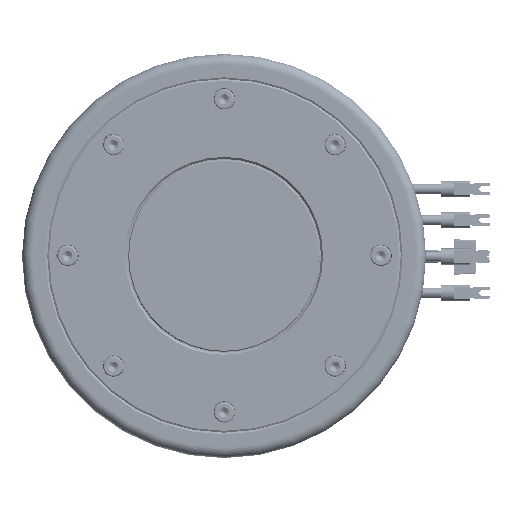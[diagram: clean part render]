
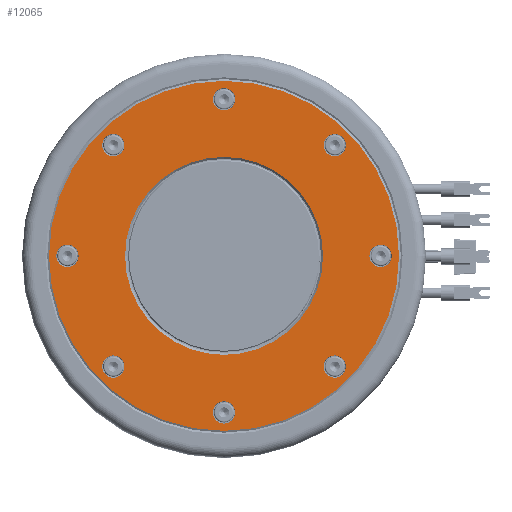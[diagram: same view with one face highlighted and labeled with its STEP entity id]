
A CAD part, top view. The second image highlights one B-rep face of the part: STEP entity #12065.
In plain terms, the highlighted planar face has unit normal (0, 0, 1) as drawn and (-1, 0, 0) by its records, which use the part's own axes.
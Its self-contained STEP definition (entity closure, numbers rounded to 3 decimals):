
#10192=CARTESIAN_POINT('',(0.,0.,0.));
#10193=DIRECTION('',(1.,0.,0.));
#10194=DIRECTION('',(0.,0.,1.));
#10195=AXIS2_PLACEMENT_3D('',#10192,#10193,#10194);
#10197=CARTESIAN_POINT('',(0.,0.,0.));
#10198=DIRECTION('',(1.,0.,0.));
#10199=DIRECTION('',(0.,0.,-1.));
#10200=AXIS2_PLACEMENT_3D('',#10197,#10198,#10199);
#10202=CARTESIAN_POINT('',(0.,54.801,54.801));
#10203=DIRECTION('',(-1.,0.,0.));
#10204=DIRECTION('',(0.,0.,1.));
#10205=AXIS2_PLACEMENT_3D('',#10202,#10203,#10204);
#10207=CARTESIAN_POINT('',(0.,54.801,54.801));
#10208=DIRECTION('',(-1.,0.,0.));
#10209=DIRECTION('',(0.,0.,-1.));
#10210=AXIS2_PLACEMENT_3D('',#10207,#10208,#10209);
#10212=CARTESIAN_POINT('',(0.,0.,77.5));
#10213=DIRECTION('',(-1.,0.,0.));
#10214=DIRECTION('',(0.,0.,1.));
#10215=AXIS2_PLACEMENT_3D('',#10212,#10213,#10214);
#10217=CARTESIAN_POINT('',(0.,0.,77.5));
#10218=DIRECTION('',(-1.,0.,0.));
#10219=DIRECTION('',(0.,0.,-1.));
#10220=AXIS2_PLACEMENT_3D('',#10217,#10218,#10219);
#10222=CARTESIAN_POINT('',(0.,-54.801,54.801));
#10223=DIRECTION('',(-1.,0.,0.));
#10224=DIRECTION('',(0.,0.,1.));
#10225=AXIS2_PLACEMENT_3D('',#10222,#10223,#10224);
#10227=CARTESIAN_POINT('',(0.,-54.801,54.801));
#10228=DIRECTION('',(-1.,0.,0.));
#10229=DIRECTION('',(0.,0.,-1.));
#10230=AXIS2_PLACEMENT_3D('',#10227,#10228,#10229);
#10232=CARTESIAN_POINT('',(0.,-77.5,0.));
#10233=DIRECTION('',(-1.,0.,0.));
#10234=DIRECTION('',(0.,0.,1.));
#10235=AXIS2_PLACEMENT_3D('',#10232,#10233,#10234);
#10237=CARTESIAN_POINT('',(0.,-77.5,0.));
#10238=DIRECTION('',(-1.,0.,0.));
#10239=DIRECTION('',(0.,0.,-1.));
#10240=AXIS2_PLACEMENT_3D('',#10237,#10238,#10239);
#10242=CARTESIAN_POINT('',(0.,-54.801,-54.801));
#10243=DIRECTION('',(-1.,0.,0.));
#10244=DIRECTION('',(0.,0.,1.));
#10245=AXIS2_PLACEMENT_3D('',#10242,#10243,#10244);
#10247=CARTESIAN_POINT('',(0.,-54.801,-54.801));
#10248=DIRECTION('',(-1.,0.,0.));
#10249=DIRECTION('',(0.,0.,-1.));
#10250=AXIS2_PLACEMENT_3D('',#10247,#10248,#10249);
#10252=CARTESIAN_POINT('',(0.,0.,-77.5));
#10253=DIRECTION('',(-1.,0.,0.));
#10254=DIRECTION('',(0.,0.,1.));
#10255=AXIS2_PLACEMENT_3D('',#10252,#10253,#10254);
#10257=CARTESIAN_POINT('',(0.,0.,-77.5));
#10258=DIRECTION('',(-1.,0.,0.));
#10259=DIRECTION('',(0.,0.,-1.));
#10260=AXIS2_PLACEMENT_3D('',#10257,#10258,#10259);
#10262=CARTESIAN_POINT('',(0.,54.801,-54.801));
#10263=DIRECTION('',(-1.,0.,0.));
#10264=DIRECTION('',(0.,0.,1.));
#10265=AXIS2_PLACEMENT_3D('',#10262,#10263,#10264);
#10267=CARTESIAN_POINT('',(0.,54.801,-54.801));
#10268=DIRECTION('',(-1.,0.,0.));
#10269=DIRECTION('',(0.,0.,-1.));
#10270=AXIS2_PLACEMENT_3D('',#10267,#10268,#10269);
#10272=CARTESIAN_POINT('',(0.,0.,0.));
#10273=DIRECTION('',(-1.,0.,0.));
#10274=DIRECTION('',(0.,0.,1.));
#10275=AXIS2_PLACEMENT_3D('',#10272,#10273,#10274);
#10277=CARTESIAN_POINT('',(0.,0.,0.));
#10278=DIRECTION('',(-1.,0.,0.));
#10279=DIRECTION('',(0.,0.,-1.));
#10280=AXIS2_PLACEMENT_3D('',#10277,#10278,#10279);
#10282=CARTESIAN_POINT('',(0.,77.5,0.));
#10283=DIRECTION('',(-1.,0.,0.));
#10284=DIRECTION('',(0.,0.,1.));
#10285=AXIS2_PLACEMENT_3D('',#10282,#10283,#10284);
#10287=CARTESIAN_POINT('',(0.,77.5,0.));
#10288=DIRECTION('',(-1.,0.,0.));
#10289=DIRECTION('',(0.,0.,-1.));
#10290=AXIS2_PLACEMENT_3D('',#10287,#10288,#10289);
#11532=CARTESIAN_POINT('',(0.,54.801,-49.276));
#11533=CARTESIAN_POINT('',(0.,54.801,-60.326));
#11534=VERTEX_POINT('',#11532);
#11535=VERTEX_POINT('',#11533);
#11536=CARTESIAN_POINT('',(0.,0.,86.634));
#11537=CARTESIAN_POINT('',(0.,0.,
-86.634));
#11538=VERTEX_POINT('',#11536);
#11539=VERTEX_POINT('',#11537);
#11540=CARTESIAN_POINT('',(0.,54.801,60.326));
#11541=CARTESIAN_POINT('',(0.,54.801,49.276));
#11542=VERTEX_POINT('',#11540);
#11543=VERTEX_POINT('',#11541);
#11544=CARTESIAN_POINT('',(0.,0.,83.025));
#11545=CARTESIAN_POINT('',(0.,0.,71.975));
#11546=VERTEX_POINT('',#11544);
#11547=VERTEX_POINT('',#11545);
#11548=CARTESIAN_POINT('',(0.,-54.801,60.326));
#11549=CARTESIAN_POINT('',(0.,-54.801,49.276));
#11550=VERTEX_POINT('',#11548);
#11551=VERTEX_POINT('',#11549);
#11552=CARTESIAN_POINT('',(0.,-77.5,5.525));
#11553=CARTESIAN_POINT('',(0.,-77.5,-5.525));
#11554=VERTEX_POINT('',#11552);
#11555=VERTEX_POINT('',#11553);
#11556=CARTESIAN_POINT('',(0.,-54.801,-49.276));
#11557=CARTESIAN_POINT('',(0.,-54.801,-60.326));
#11558=VERTEX_POINT('',#11556);
#11559=VERTEX_POINT('',#11557);
#11560=CARTESIAN_POINT('',(0.,0.,-71.975));
#11561=CARTESIAN_POINT('',(0.,0.,-83.025));
#11562=VERTEX_POINT('',#11560);
#11563=VERTEX_POINT('',#11561);
#11564=CARTESIAN_POINT('',(0.,0.,49.));
#11565=CARTESIAN_POINT('',(0.,0.,-49.));
#11566=VERTEX_POINT('',#11564);
#11567=VERTEX_POINT('',#11565);
#11568=CARTESIAN_POINT('',(0.,77.5,5.525));
#11569=CARTESIAN_POINT('',(0.,77.5,-5.525));
#11570=VERTEX_POINT('',#11568);
#11571=VERTEX_POINT('',#11569);
#12001=CARTESIAN_POINT('',(0.,49.,0.));
#12002=DIRECTION('',(1.,0.,0.));
#12003=DIRECTION('',(0.,0.,-1.));
#12004=AXIS2_PLACEMENT_3D('',#12001,#12002,#12003);
#12005=PLANE('',#12004);
#12007=ORIENTED_EDGE('',*,*,#12006,.T.);
#12009=ORIENTED_EDGE('',*,*,#12008,.T.);
#12010=EDGE_LOOP('',(#12007,#12009));
#12011=FACE_OUTER_BOUND('',#12010,.F.);
#12013=ORIENTED_EDGE('',*,*,#12012,.T.);
#12015=ORIENTED_EDGE('',*,*,#12014,.T.);
#12016=EDGE_LOOP('',(#12013,#12015));
#12017=FACE_BOUND('',#12016,.F.);
#12019=ORIENTED_EDGE('',*,*,#12018,.T.);
#12021=ORIENTED_EDGE('',*,*,#12020,.T.);
#12022=EDGE_LOOP('',(#12019,#12021));
#12023=FACE_BOUND('',#12022,.F.);
#12025=ORIENTED_EDGE('',*,*,#12024,.T.);
#12027=ORIENTED_EDGE('',*,*,#12026,.T.);
#12028=EDGE_LOOP('',(#12025,#12027));
#12029=FACE_BOUND('',#12028,.F.);
#12031=ORIENTED_EDGE('',*,*,#12030,.T.);
#12033=ORIENTED_EDGE('',*,*,#12032,.T.);
#12034=EDGE_LOOP('',(#12031,#12033));
#12035=FACE_BOUND('',#12034,.F.);
#12037=ORIENTED_EDGE('',*,*,#12036,.T.);
#12039=ORIENTED_EDGE('',*,*,#12038,.T.);
#12040=EDGE_LOOP('',(#12037,#12039));
#12041=FACE_BOUND('',#12040,.F.);
#12043=ORIENTED_EDGE('',*,*,#12042,.T.);
#12045=ORIENTED_EDGE('',*,*,#12044,.T.);
#12046=EDGE_LOOP('',(#12043,#12045));
#12047=FACE_BOUND('',#12046,.F.);
#12048=ORIENTED_EDGE('',*,*,#11991,.T.);
#12050=ORIENTED_EDGE('',*,*,#12049,.T.);
#12051=EDGE_LOOP('',(#12048,#12050));
#12052=FACE_BOUND('',#12051,.F.);
#12054=ORIENTED_EDGE('',*,*,#12053,.T.);
#12056=ORIENTED_EDGE('',*,*,#12055,.T.);
#12057=EDGE_LOOP('',(#12054,#12056));
#12058=FACE_BOUND('',#12057,.F.);
#12060=ORIENTED_EDGE('',*,*,#12059,.T.);
#12062=ORIENTED_EDGE('',*,*,#12061,.T.);
#12063=EDGE_LOOP('',(#12060,#12062));
#12064=FACE_BOUND('',#12063,.F.);
#12065=ADVANCED_FACE('',(#12011,#12017,#12023,#12029,#12035,#12041,#12047,
#12052,#12058,#12064),#12005,.F.);
#10196=CIRCLE('',#10195,86.634);
#10201=CIRCLE('',#10200,86.634);
#10206=CIRCLE('',#10205,5.525);
#10211=CIRCLE('',#10210,5.525);
#10216=CIRCLE('',#10215,5.525);
#10221=CIRCLE('',#10220,5.525);
#10226=CIRCLE('',#10225,5.525);
#10231=CIRCLE('',#10230,5.525);
#10236=CIRCLE('',#10235,5.525);
#10241=CIRCLE('',#10240,5.525);
#10246=CIRCLE('',#10245,5.525);
#10251=CIRCLE('',#10250,5.525);
#10256=CIRCLE('',#10255,5.525);
#10261=CIRCLE('',#10260,5.525);
#10266=CIRCLE('',#10265,5.525);
#10271=CIRCLE('',#10270,5.525);
#10276=CIRCLE('',#10275,49.);
#10281=CIRCLE('',#10280,49.);
#10286=CIRCLE('',#10285,5.525);
#10291=CIRCLE('',#10290,5.525);
#11991=EDGE_CURVE('',#11534,#11535,#10266,.T.);
#12006=EDGE_CURVE('',#11538,#11539,#10196,.T.);
#12008=EDGE_CURVE('',#11539,#11538,#10201,.T.);
#12012=EDGE_CURVE('',#11542,#11543,#10206,.T.);
#12014=EDGE_CURVE('',#11543,#11542,#10211,.T.);
#12018=EDGE_CURVE('',#11546,#11547,#10216,.T.);
#12020=EDGE_CURVE('',#11547,#11546,#10221,.T.);
#12024=EDGE_CURVE('',#11550,#11551,#10226,.T.);
#12026=EDGE_CURVE('',#11551,#11550,#10231,.T.);
#12030=EDGE_CURVE('',#11554,#11555,#10236,.T.);
#12032=EDGE_CURVE('',#11555,#11554,#10241,.T.);
#12036=EDGE_CURVE('',#11558,#11559,#10246,.T.);
#12038=EDGE_CURVE('',#11559,#11558,#10251,.T.);
#12042=EDGE_CURVE('',#11562,#11563,#10256,.T.);
#12044=EDGE_CURVE('',#11563,#11562,#10261,.T.);
#12049=EDGE_CURVE('',#11535,#11534,#10271,.T.);
#12053=EDGE_CURVE('',#11566,#11567,#10276,.T.);
#12055=EDGE_CURVE('',#11567,#11566,#10281,.T.);
#12059=EDGE_CURVE('',#11570,#11571,#10286,.T.);
#12061=EDGE_CURVE('',#11571,#11570,#10291,.T.);
